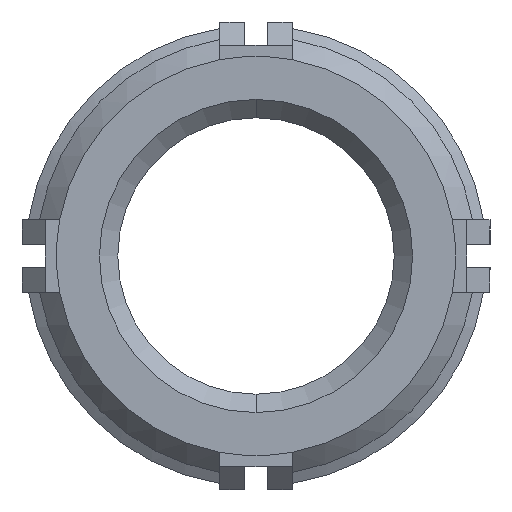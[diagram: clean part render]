
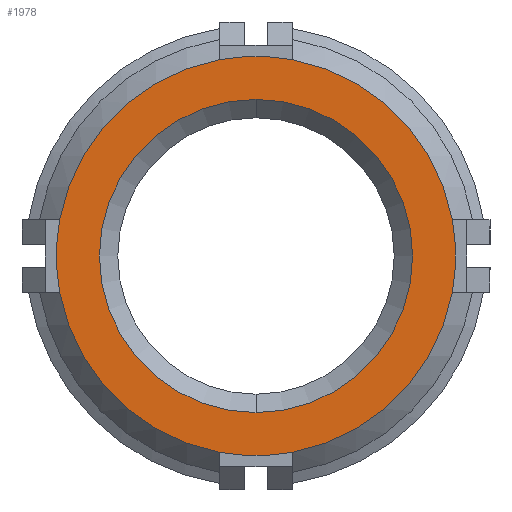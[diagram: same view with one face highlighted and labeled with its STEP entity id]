
A CAD part, front view. The second image highlights one B-rep face of the part: STEP entity #1978.
In plain terms, the highlighted planar face has unit normal (0, -1, 0).
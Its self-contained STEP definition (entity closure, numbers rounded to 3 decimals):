
#28 = VERTEX_POINT ( 'NONE', #4770 ) ;
#61 = EDGE_CURVE ( 'NONE', #5041, #2505, #4393, .T. ) ;
#66 = DIRECTION ( 'NONE',  ( 0., -1., 0. ) ) ;
#215 = EDGE_CURVE ( 'NONE', #4109, #2297, #2311, .T. ) ;
#303 = CIRCLE ( 'NONE', #4659, 13.758 ) ;
#351 = DIRECTION ( 'NONE',  ( 0., 0., 1. ) ) ;
#356 = DIRECTION ( 'NONE',  ( 0., 0., 1. ) ) ;
#446 = AXIS2_PLACEMENT_3D ( 'NONE', #3139, #3116, #1086 ) ;
#590 = DIRECTION ( 'NONE',  ( 1., 0., 0. ) ) ;
#761 = DIRECTION ( 'NONE',  ( 0., -1., 0. ) ) ;
#931 = AXIS2_PLACEMENT_3D ( 'NONE', #2120, #66, #590 ) ;
#969 = CIRCLE ( 'NONE', #4649, 13.758 ) ;
#1031 = CARTESIAN_POINT ( 'NONE',  ( 13.529, -28.448, -2.5 ) ) ;
#1086 = DIRECTION ( 'NONE',  ( 0., 0., 1. ) ) ;
#1179 = CIRCLE ( 'NONE', #4122, 13.758 ) ;
#1186 = VERTEX_POINT ( 'NONE', #1953 ) ;
#1352 = CIRCLE ( 'NONE', #5337, 13.758 ) ;
#1365 = ORIENTED_EDGE ( 'NONE', *, *, #1907, .T. ) ;
#1406 = CARTESIAN_POINT ( 'NONE',  ( 0., -28.448, 0. ) ) ;
#1446 = VERTEX_POINT ( 'NONE', #3688 ) ;
#1456 = ORIENTED_EDGE ( 'NONE', *, *, #5818, .T. ) ;
#1550 = ORIENTED_EDGE ( 'NONE', *, *, #2275, .T. ) ;
#1686 = CARTESIAN_POINT ( 'NONE',  ( -2.5, -28.448, 13.529 ) ) ;
#1705 = AXIS2_PLACEMENT_3D ( 'NONE', #5482, #2449, #5551 ) ;
#1907 = EDGE_CURVE ( 'NONE', #5949, #3698, #1179, .T. ) ;
#1953 = CARTESIAN_POINT ( 'NONE',  ( 2.5, -28.448, -13.529 ) ) ;
#1978 = ADVANCED_FACE ( 'NONE', ( #5506, #5416 ), #4801, .F. ) ;
#2047 = CARTESIAN_POINT ( 'NONE',  ( -2.5, -28.448, -13.529 ) ) ;
#2105 = CARTESIAN_POINT ( 'NONE',  ( 0., -28.448, 0. ) ) ;
#2120 = CARTESIAN_POINT ( 'NONE',  ( 0., -28.448, 0. ) ) ;
#2146 = CIRCLE ( 'NONE', #6481, 10.795 ) ;
#2171 = CIRCLE ( 'NONE', #931, 13.758 ) ;
#2275 = EDGE_CURVE ( 'NONE', #2297, #4109, #2146, .T. ) ;
#2291 = DIRECTION ( 'NONE',  ( 0., 0., 1. ) ) ;
#2297 = VERTEX_POINT ( 'NONE', #4469 ) ;
#2311 = CIRCLE ( 'NONE', #1705, 10.795 ) ;
#2449 = DIRECTION ( 'NONE',  ( 0., 1., 0. ) ) ;
#2505 = VERTEX_POINT ( 'NONE', #4570 ) ;
#2567 = CIRCLE ( 'NONE', #446, 13.758 ) ;
#2584 = ORIENTED_EDGE ( 'NONE', *, *, #3640, .T. ) ;
#2772 = DIRECTION ( 'NONE',  ( 0., 0., 1. ) ) ;
#2813 = CARTESIAN_POINT ( 'NONE',  ( 0., -28.448, 0. ) ) ;
#2839 = CARTESIAN_POINT ( 'NONE',  ( 0., -28.448, 0. ) ) ;
#2898 = ORIENTED_EDGE ( 'NONE', *, *, #4296, .T. ) ;
#3114 = AXIS2_PLACEMENT_3D ( 'NONE', #2813, #761, #2291 ) ;
#3116 = DIRECTION ( 'NONE',  ( 0., -1., 0. ) ) ;
#3139 = CARTESIAN_POINT ( 'NONE',  ( 0., -28.448, 0. ) ) ;
#3152 = ORIENTED_EDGE ( 'NONE', *, *, #215, .T. ) ;
#3179 = CARTESIAN_POINT ( 'NONE',  ( 0., -28.448, 0. ) ) ;
#3189 = DIRECTION ( 'NONE',  ( 0., 0., -1. ) ) ;
#3201 = DIRECTION ( 'NONE',  ( 0., 0., 1. ) ) ;
#3279 = ORIENTED_EDGE ( 'NONE', *, *, #5508, .T. ) ;
#3440 = ORIENTED_EDGE ( 'NONE', *, *, #61, .T. ) ;
#3613 = ORIENTED_EDGE ( 'NONE', *, *, #4357, .T. ) ;
#3640 = EDGE_CURVE ( 'NONE', #1186, #5949, #969, .T. ) ;
#3688 = CARTESIAN_POINT ( 'NONE',  ( -13.529, -28.448, -2.5 ) ) ;
#3698 = VERTEX_POINT ( 'NONE', #4486 ) ;
#3769 = EDGE_LOOP ( 'NONE', ( #3152, #1550 ) ) ;
#4006 = AXIS2_PLACEMENT_3D ( 'NONE', #2839, #5911, #2772 ) ;
#4050 = DIRECTION ( 'NONE',  ( -1., 0., 0. ) ) ;
#4109 = VERTEX_POINT ( 'NONE', #6492 ) ;
#4122 = AXIS2_PLACEMENT_3D ( 'NONE', #2105, #6206, #3189 ) ;
#4296 = EDGE_CURVE ( 'NONE', #2505, #1446, #2567, .T. ) ;
#4357 = EDGE_CURVE ( 'NONE', #28, #5041, #2171, .T. ) ;
#4393 = CIRCLE ( 'NONE', #3114, 13.758 ) ;
#4469 = CARTESIAN_POINT ( 'NONE',  ( 0., -28.448, 10.795 ) ) ;
#4486 = CARTESIAN_POINT ( 'NONE',  ( 13.529, -28.448, 2.5 ) ) ;
#4511 = DIRECTION ( 'NONE',  ( 0., -1., 0. ) ) ;
#4526 = EDGE_CURVE ( 'NONE', #1446, #5358, #5450, .T. ) ;
#4570 = CARTESIAN_POINT ( 'NONE',  ( -13.529, -28.448, 2.5 ) ) ;
#4649 = AXIS2_PLACEMENT_3D ( 'NONE', #1406, #4511, #351 ) ;
#4659 = AXIS2_PLACEMENT_3D ( 'NONE', #3179, #6272, #3201 ) ;
#4765 = DIRECTION ( 'NONE',  ( 0., 1., 0. ) ) ;
#4770 = CARTESIAN_POINT ( 'NONE',  ( 2.5, -28.448, 13.529 ) ) ;
#4801 = PLANE ( 'NONE',  #5753 ) ;
#5041 = VERTEX_POINT ( 'NONE', #1686 ) ;
#5201 = CARTESIAN_POINT ( 'NONE',  ( 0., -28.448, 0. ) ) ;
#5265 = ORIENTED_EDGE ( 'NONE', *, *, #4526, .T. ) ;
#5337 = AXIS2_PLACEMENT_3D ( 'NONE', #6615, #6024, #4050 ) ;
#5358 = VERTEX_POINT ( 'NONE', #2047 ) ;
#5416 = FACE_OUTER_BOUND ( 'NONE', #6341, .T. ) ;
#5450 = CIRCLE ( 'NONE', #4006, 13.758 ) ;
#5482 = CARTESIAN_POINT ( 'NONE',  ( 0., -28.448, 0. ) ) ;
#5506 = FACE_BOUND ( 'NONE', #3769, .T. ) ;
#5508 = EDGE_CURVE ( 'NONE', #3698, #28, #303, .T. ) ;
#5551 = DIRECTION ( 'NONE',  ( 0., 0., 1. ) ) ;
#5753 = AXIS2_PLACEMENT_3D ( 'NONE', #5825, #4765, #6343 ) ;
#5818 = EDGE_CURVE ( 'NONE', #5358, #1186, #1352, .T. ) ;
#5825 = CARTESIAN_POINT ( 'NONE',  ( 0., -28.448, 0. ) ) ;
#5911 = DIRECTION ( 'NONE',  ( 0., -1., 0. ) ) ;
#5949 = VERTEX_POINT ( 'NONE', #1031 ) ;
#6024 = DIRECTION ( 'NONE',  ( 0., -1., 0. ) ) ;
#6138 = DIRECTION ( 'NONE',  ( 0., 1., 0. ) ) ;
#6206 = DIRECTION ( 'NONE',  ( 0., -1., 0. ) ) ;
#6272 = DIRECTION ( 'NONE',  ( 0., -1., 0. ) ) ;
#6341 = EDGE_LOOP ( 'NONE', ( #2898, #5265, #1456, #2584, #1365, #3279, #3613, #3440 ) ) ;
#6343 = DIRECTION ( 'NONE',  ( 0., 0., 1. ) ) ;
#6481 = AXIS2_PLACEMENT_3D ( 'NONE', #5201, #6138, #356 ) ;
#6492 = CARTESIAN_POINT ( 'NONE',  ( 0., -28.448, -10.795 ) ) ;
#6615 = CARTESIAN_POINT ( 'NONE',  ( 0., -28.448, 0. ) ) ;
